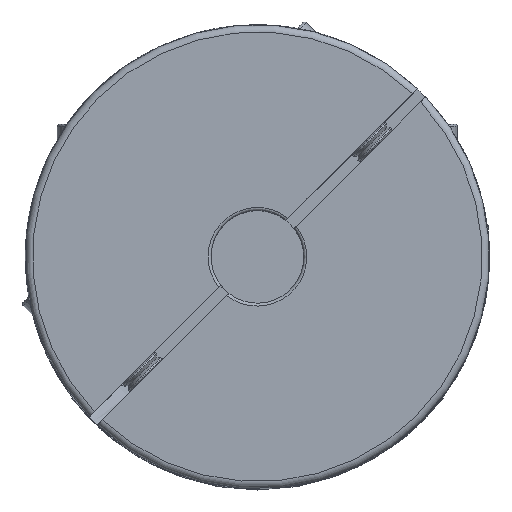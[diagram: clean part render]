
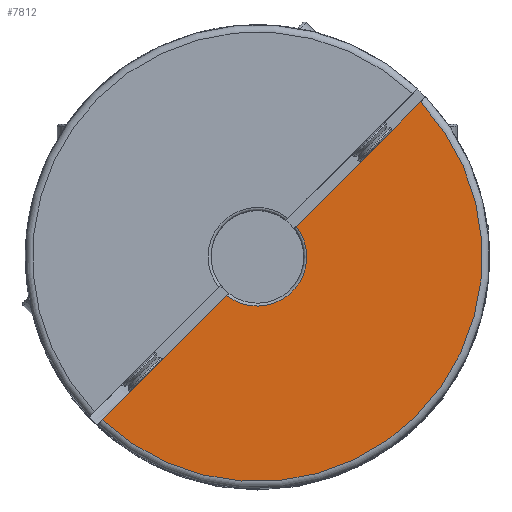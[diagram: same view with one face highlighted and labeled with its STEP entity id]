
A CAD part, top view. The second image highlights one B-rep face of the part: STEP entity #7812.
In plain terms, the highlighted planar face has unit normal (0, 0, 1).
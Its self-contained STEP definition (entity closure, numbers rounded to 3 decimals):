
#5532 = ORIENTED_EDGE ( 'NONE', *, *, #21557, .F. ) ;
#7603 = ORIENTED_EDGE ( 'NONE', *, *, #32056, .T. ) ;
#7812 = ADVANCED_FACE ( 'NONE', ( #10388 ), #8457, .F. ) ;
#7994 = LINE ( 'NONE', #27423, #12318 ) ;
#8420 = CARTESIAN_POINT ( 'NONE',  ( -26.456, -26.996, 108.552 ) ) ;
#8457 = PLANE ( 'NONE',  #26203 ) ;
#8877 = AXIS2_PLACEMENT_3D ( 'NONE', #30196, #14895, #32781 ) ;
#9150 = CIRCLE ( 'NONE', #28791, 38.75 ) ;
#9353 = EDGE_CURVE ( 'NONE', #15588, #31280, #9150, .T. ) ;
#10388 = FACE_OUTER_BOUND ( 'NONE', #17340, .T. ) ;
#11486 = CARTESIAN_POINT ( 'NONE',  ( 1.121, 1.995, 108.552 ) ) ;
#12318 = VECTOR ( 'NONE', #19744, 1000. ) ;
#13226 = LINE ( 'NONE', #8420, #30387 ) ;
#14033 = DIRECTION ( 'NONE',  ( -0.707, -0.707, 0. ) ) ;
#14895 = DIRECTION ( 'NONE',  ( 0., 0., -1. ) ) ;
#15588 = VERTEX_POINT ( 'NONE', #21853 ) ;
#16101 = DIRECTION ( 'NONE',  ( -0.707, -0.707, 0. ) ) ;
#16637 = CIRCLE ( 'NONE', #8877, 8.5 ) ;
#17340 = EDGE_LOOP ( 'NONE', ( #25408, #23115, #5532, #7603 ) ) ;
#18594 = CARTESIAN_POINT ( 'NONE',  ( 1.121, 1.995, 108.552 ) ) ;
#18700 = VERTEX_POINT ( 'NONE', #26853 ) ;
#19744 = DIRECTION ( 'NONE',  ( 0.707, 0.707, 0. ) ) ;
#21557 = EDGE_CURVE ( 'NONE', #18700, #31280, #13226, .T. ) ;
#21853 = CARTESIAN_POINT ( 'NONE',  ( -25.563, -26.103, 108.552 ) ) ;
#23115 = ORIENTED_EDGE ( 'NONE', *, *, #9353, .T. ) ;
#23435 = VERTEX_POINT ( 'NONE', #30271 ) ;
#25408 = ORIENTED_EDGE ( 'NONE', *, *, #30232, .F. ) ;
#26203 = AXIS2_PLACEMENT_3D ( 'NONE', #18594, #31392, #16101 ) ;
#26853 = CARTESIAN_POINT ( 'NONE',  ( 7.797, 7.257, 108.552 ) ) ;
#27423 = CARTESIAN_POINT ( 'NONE',  ( -26.456, -26.996, 108.552 ) ) ;
#28791 = AXIS2_PLACEMENT_3D ( 'NONE', #11486, #29326, #14033 ) ;
#29326 = DIRECTION ( 'NONE',  ( 0., 0., 1. ) ) ;
#29814 = CARTESIAN_POINT ( 'NONE',  ( 29.219, 28.68, 108.552 ) ) ;
#30196 = CARTESIAN_POINT ( 'NONE',  ( 1.121, 1.995, 108.552 ) ) ;
#30232 = EDGE_CURVE ( 'NONE', #15588, #23435, #7994, .T. ) ;
#30271 = CARTESIAN_POINT ( 'NONE',  ( -4.141, -4.68, 108.552 ) ) ;
#30387 = VECTOR ( 'NONE', #31361, 1000. ) ;
#31280 = VERTEX_POINT ( 'NONE', #29814 ) ;
#31361 = DIRECTION ( 'NONE',  ( 0.707, 0.707, 0. ) ) ;
#31392 = DIRECTION ( 'NONE',  ( 0., 0., -1. ) ) ;
#32056 = EDGE_CURVE ( 'NONE', #18700, #23435, #16637, .T. ) ;
#32781 = DIRECTION ( 'NONE',  ( -0.707, -0.707, 0. ) ) ;
